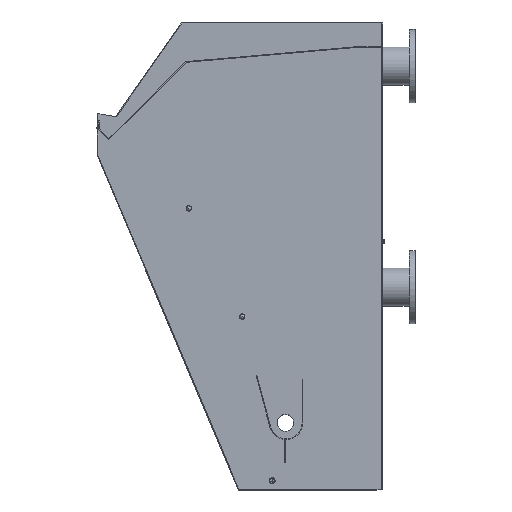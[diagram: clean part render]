
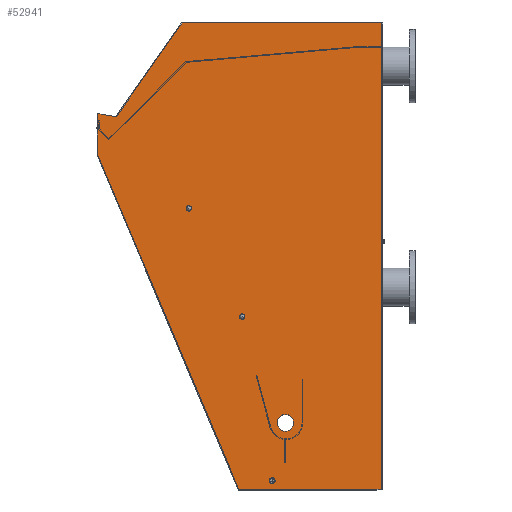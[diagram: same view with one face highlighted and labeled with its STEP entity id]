
A CAD part, top view. The second image highlights one B-rep face of the part: STEP entity #52941.
In plain terms, the highlighted planar face has unit normal (0, 0, 1).
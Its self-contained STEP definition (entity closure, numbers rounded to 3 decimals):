
#6846=LINE('',#92218,#11585);
#6848=LINE('',#92222,#11587);
#6857=LINE('',#92249,#11596);
#6859=LINE('',#92253,#11598);
#6867=LINE('',#92269,#11606);
#6879=LINE('',#92294,#11618);
#6892=LINE('',#92316,#11631);
#6903=LINE('',#92339,#11642);
#11585=VECTOR('',#64721,0.2);
#11587=VECTOR('',#64725,60.);
#11596=VECTOR('',#64752,140.3);
#11598=VECTOR('',#64756,43.);
#11606=VECTOR('',#64768,34.539);
#11618=VECTOR('',#64786,12.5);
#11631=VECTOR('',#64811,108.855);
#11642=VECTOR('',#64842,5.59);
#12796=FACE_BOUND('',#18943,.T.);
#12797=FACE_BOUND('',#18944,.T.);
#12798=FACE_BOUND('',#18945,.T.);
#12799=FACE_BOUND('',#18946,.T.);
#15646=FACE_OUTER_BOUND('',#18942,.T.);
#18942=EDGE_LOOP('',(#44987,#44988,#44989,#44990,#44991,#44992,#44993,#44994));
#18943=EDGE_LOOP('',(#44995));
#18944=EDGE_LOOP('',(#44996));
#18945=EDGE_LOOP('',(#44997));
#18946=EDGE_LOOP('',(#44998));
#19640=CIRCLE('',#55349,0.9);
#19661=CIRCLE('',#55413,2.5);
#19662=CIRCLE('',#55440,0.8);
#19663=CIRCLE('',#55441,0.8);
#24186=VERTEX_POINT('',#91941);
#24276=VERTEX_POINT('',#92215);
#24277=VERTEX_POINT('',#92217);
#24278=VERTEX_POINT('',#92221);
#24281=VERTEX_POINT('',#92231);
#24287=VERTEX_POINT('',#92248);
#24288=VERTEX_POINT('',#92252);
#24294=VERTEX_POINT('',#92267);
#24303=VERTEX_POINT('',#92291);
#24304=VERTEX_POINT('',#92293);
#24310=VERTEX_POINT('',#92341);
#24311=VERTEX_POINT('',#92343);
#31091=EDGE_CURVE('',#24186,#24186,#19640,.T.);
#31213=EDGE_CURVE('',#24276,#24277,#6846,.T.);
#31215=EDGE_CURVE('',#24277,#24278,#6848,.T.);
#31219=EDGE_CURVE('',#24281,#24281,#19661,.T.);
#31227=EDGE_CURVE('',#24278,#24287,#6857,.T.);
#31229=EDGE_CURVE('',#24287,#24288,#6859,.T.);
#31237=EDGE_CURVE('',#24294,#24276,#6867,.T.);
#31249=EDGE_CURVE('',#24303,#24304,#6879,.T.);
#31262=EDGE_CURVE('',#24288,#24303,#6892,.T.);
#31273=EDGE_CURVE('',#24304,#24294,#6903,.T.);
#31274=EDGE_CURVE('',#24310,#24310,#19662,.T.);
#31275=EDGE_CURVE('',#24311,#24311,#19663,.T.);
#44987=ORIENTED_EDGE('',*,*,#31227,.F.);
#44988=ORIENTED_EDGE('',*,*,#31215,.F.);
#44989=ORIENTED_EDGE('',*,*,#31213,.F.);
#44990=ORIENTED_EDGE('',*,*,#31237,.F.);
#44991=ORIENTED_EDGE('',*,*,#31273,.F.);
#44992=ORIENTED_EDGE('',*,*,#31249,.F.);
#44993=ORIENTED_EDGE('',*,*,#31262,.F.);
#44994=ORIENTED_EDGE('',*,*,#31229,.F.);
#44995=ORIENTED_EDGE('',*,*,#31274,.T.);
#44996=ORIENTED_EDGE('',*,*,#31275,.T.);
#44997=ORIENTED_EDGE('',*,*,#31091,.T.);
#44998=ORIENTED_EDGE('',*,*,#31219,.F.);
#47429=PLANE('',#55439);
#52941=ADVANCED_FACE('',(#15646,#12796,#12797,#12798,#12799),#47429,.T.);
#55349=AXIS2_PLACEMENT_3D('',#91942,#64514,#64515);
#55413=AXIS2_PLACEMENT_3D('',#92232,#64737,#64738);
#55439=AXIS2_PLACEMENT_3D('',#92340,#64843,#64844);
#55440=AXIS2_PLACEMENT_3D('',#92342,#64845,#64846);
#55441=AXIS2_PLACEMENT_3D('',#92344,#64847,#64848);
#64514=DIRECTION('center_axis',(0.,0.,
-1.));
#64515=DIRECTION('ref_axis',(1.,0.,0.));
#64721=DIRECTION('',(0.,1.,0.));
#64725=DIRECTION('',(1.,0.,0.));
#64737=DIRECTION('center_axis',(0.,0.,
1.));
#64738=DIRECTION('ref_axis',(0.,1.,0.));
#64752=DIRECTION('',(0.,-1.,0.));
#64756=DIRECTION('',(-1.,0.,0.));
#64768=DIRECTION('',(0.573,0.819,0.));
#64786=DIRECTION('',(0.,1.,0.));
#64811=DIRECTION('',(-0.389,0.921,0.));
#64842=DIRECTION('',(0.984,-0.179,0.));
#64843=DIRECTION('center_axis',(0.,0.,
1.));
#64844=DIRECTION('ref_axis',(0.,1.,0.));
#64845=DIRECTION('center_axis',(0.,0.,
-1.));
#64846=DIRECTION('ref_axis',(0.605,0.796,0.));
#64847=DIRECTION('center_axis',(0.,0.,
-1.));
#64848=DIRECTION('ref_axis',(-0.727,-0.687,0.));
#91941=CARTESIAN_POINT('',(-3.156,-130.4,22.7));
#91942=CARTESIAN_POINT('Origin',(-4.056,-130.4,22.7));
#92215=CARTESIAN_POINT('',(-31.056,7.2,22.7));
#92217=CARTESIAN_POINT('',(-31.056,7.4,22.7));
#92218=CARTESIAN_POINT('',(-31.056,7.4,22.7));
#92221=CARTESIAN_POINT('',(28.944,7.4,22.7));
#92222=CARTESIAN_POINT('',(28.944,7.4,22.7));
#92231=CARTESIAN_POINT('',(-0.056,-115.5,22.7));
#92232=CARTESIAN_POINT('Origin',(-0.056,-113.,
22.7));
#92248=CARTESIAN_POINT('',(28.944,-132.9,22.7));
#92249=CARTESIAN_POINT('',(28.944,7.2,22.7));
#92252=CARTESIAN_POINT('',(-14.056,-132.9,22.7));
#92253=CARTESIAN_POINT('',(28.944,-132.9,22.7));
#92267=CARTESIAN_POINT('',(-50.856,-21.1,22.7));
#92269=CARTESIAN_POINT('',(-50.856,-21.1,22.7));
#92291=CARTESIAN_POINT('',(-56.356,-32.6,22.7));
#92293=CARTESIAN_POINT('',(-56.356,-20.1,22.7));
#92294=CARTESIAN_POINT('',(-56.356,-32.6,22.7));
#92316=CARTESIAN_POINT('',(-14.056,-132.9,22.7));
#92339=CARTESIAN_POINT('',(-56.356,-20.1,22.7));
#92340=CARTESIAN_POINT('Origin',(-4.793,-58.777,22.7));
#92341=CARTESIAN_POINT('',(-13.54,-81.737,22.7));
#92342=CARTESIAN_POINT('Origin',(-13.056,-81.1,22.7));
#92343=CARTESIAN_POINT('',(-28.474,-48.051,22.7));
#92344=CARTESIAN_POINT('Origin',(-29.056,-48.6,22.7));
